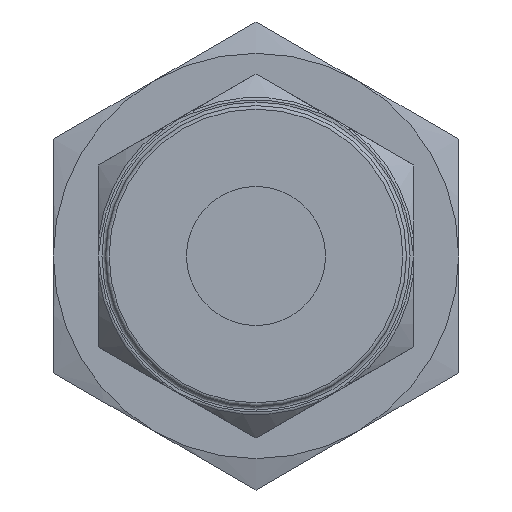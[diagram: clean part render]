
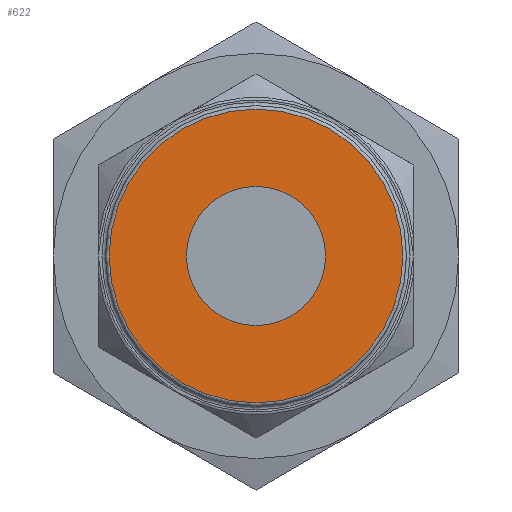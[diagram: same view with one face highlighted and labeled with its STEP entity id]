
A CAD part, left-side view. The second image highlights one B-rep face of the part: STEP entity #622.
In plain terms, the highlighted planar face has unit normal (-1, 0, 0).
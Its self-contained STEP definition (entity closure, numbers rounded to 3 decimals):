
#622 = ADVANCED_FACE( '', ( #1557, #1558 ), #1559, .T. );
#1557 = FACE_BOUND( '', #3520, .T. );
#1558 = FACE_OUTER_BOUND( '', #3521, .T. );
#1559 = PLANE( '', #3522 );
#3520 = EDGE_LOOP( '', ( #7490 ) );
#3521 = EDGE_LOOP( '', ( #7491 ) );
#3522 = AXIS2_PLACEMENT_3D( '', #7492, #7493, #7494 );
#7490 = ORIENTED_EDGE( '', *, *, #10940, .T. );
#7491 = ORIENTED_EDGE( '', *, *, #10453, .T. );
#7492 = CARTESIAN_POINT( '', ( 0., 0., 0. ) );
#7493 = DIRECTION( '', ( -1., 0., 0. ) );
#7494 = DIRECTION( '', ( 0., 0., 1. ) );
#10453 = EDGE_CURVE( '', #11873, #11873, #11874, .T. );
#10940 = EDGE_CURVE( '', #12699, #12699, #12700, .T. );
#11873 = VERTEX_POINT( '', #14055 );
#11874 = CIRCLE( '', #14056, 10.351 );
#12699 = VERTEX_POINT( '', #17275 );
#12700 = CIRCLE( '', #17276, 4.902 );
#14055 = CARTESIAN_POINT( '', ( 0., -10.351, 0. ) );
#14056 = AXIS2_PLACEMENT_3D( '', #20200, #20201, #20202 );
#17275 = CARTESIAN_POINT( '', ( 0., 0., 4.902 ) );
#17276 = AXIS2_PLACEMENT_3D( '', #20636, #20637, #20638 );
#20200 = CARTESIAN_POINT( '', ( 0., 0., 0. ) );
#20201 = DIRECTION( '', ( -1., 0., 0. ) );
#20202 = DIRECTION( '', ( 0., -1., 0. ) );
#20636 = CARTESIAN_POINT( '', ( 0., 0., 0. ) );
#20637 = DIRECTION( '', ( 1., 0., 0. ) );
#20638 = DIRECTION( '', ( 0., 0., 1. ) );
